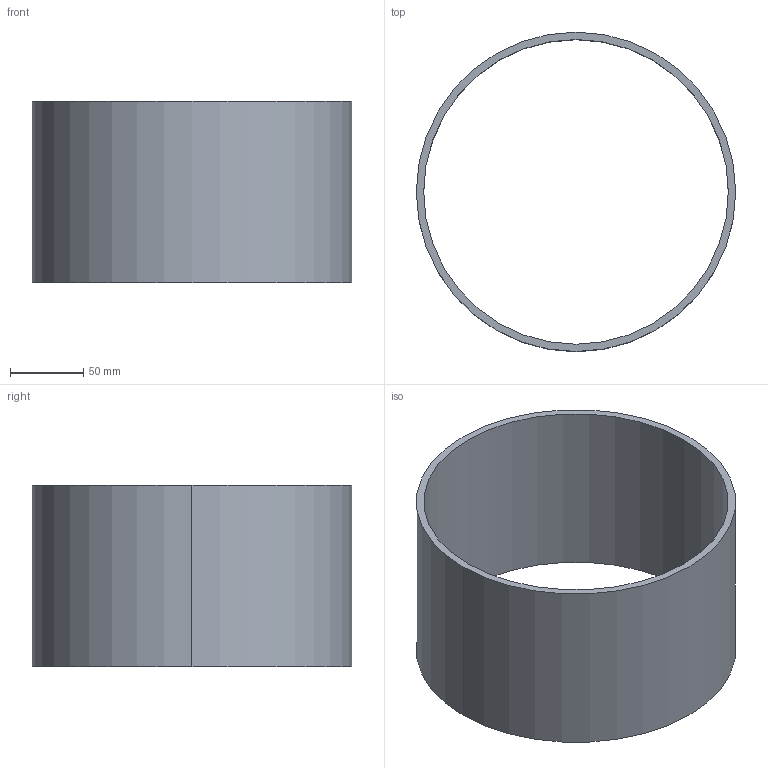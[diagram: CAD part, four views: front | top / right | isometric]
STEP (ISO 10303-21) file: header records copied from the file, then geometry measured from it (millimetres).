
FILE_DESCRIPTION(('CATIA V5 STEP Exchange'),'2;1');
FILE_NAME('C:\_Andres\UNIVERSIDAD\IQS\ASIGNATURAS\DAO\EXF\EXF-15161c\1original\Formosa_Marín_Ej07-tabla_v9.stp','2016-03-04T21:16:34+00:00',('none'),('none'),'CATIA Version 5 Release 20 SP 1 (IN-10)','CATIA V5 STEP AP203','none');
FILE_SCHEMA(('CONFIG_CONTROL_DESIGN'));
Length unit declared in the file: millimetre
Products named in the file (1): Formosa_Marín_Ej07-tabla_v9
Bounding box: 218 x 218 x 124 mm (x, y, z)
Volume: 414878.7 mm3; surface area: 172643.1 mm2
Topology: 1 solids, 1 shells, 6 faces, 13 edges, 10 vertices
Faces by surface type: cylinder 4, plane 2
Entity records: 208 total; most frequent: CARTESIAN_POINT 29, ORIENTED_EDGE 24, DIRECTION 23, AXIS2_PLACEMENT_3D 14, EDGE_CURVE 12, CIRCLE 8, EDGE_LOOP 8, VERTEX_POINT 8
